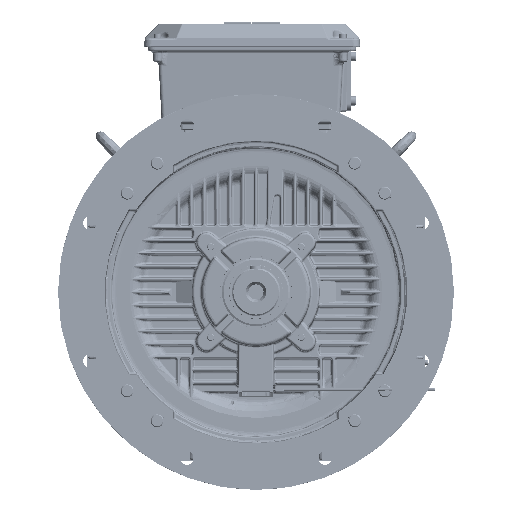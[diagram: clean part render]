
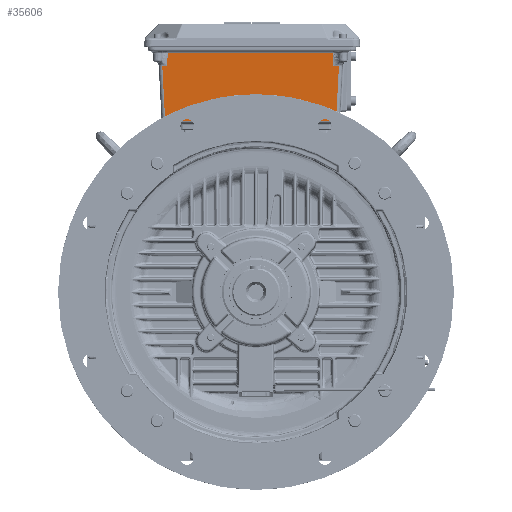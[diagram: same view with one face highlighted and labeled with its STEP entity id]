
A CAD part, front view. The second image highlights one B-rep face of the part: STEP entity #35606.
In plain terms, the highlighted planar face has unit normal (0, -0.999, -0.052).
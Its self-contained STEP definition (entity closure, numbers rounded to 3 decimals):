
#23768=B_SPLINE_CURVE_WITH_KNOTS('',3,(#432582,#432583,#432584,#432585,
#432586,#432587,#432588),.UNSPECIFIED.,.F.,.F.,(4,1,1,1,4),(0.,0.235,
0.277,0.319,1.),.UNSPECIFIED.);
#23775=B_SPLINE_CURVE_WITH_KNOTS('',3,(#432789,#432790,#432791,#432792,
#432793,#432794,#432795),.UNSPECIFIED.,.F.,.F.,(4,1,1,1,4),(0.,0.681,
0.723,0.765,1.),.UNSPECIFIED.);
#35606=ADVANCED_FACE('',(#51773),#40303,.T.);
#40303=PLANE('',#210285);
#51773=FACE_OUTER_BOUND('',#64686,.T.);
#64686=EDGE_LOOP('',(#124663,#124664,#124665,#124666,#124667,#124668,#124669,
#124670));
#124663=ORIENTED_EDGE('',*,*,#170658,.T.);
#124664=ORIENTED_EDGE('',*,*,#170657,.F.);
#124665=ORIENTED_EDGE('',*,*,#170423,.T.);
#124666=ORIENTED_EDGE('',*,*,#170426,.T.);
#124667=ORIENTED_EDGE('',*,*,#170551,.F.);
#124668=ORIENTED_EDGE('',*,*,#170441,.T.);
#124669=ORIENTED_EDGE('',*,*,#170435,.T.);
#124670=ORIENTED_EDGE('',*,*,#170659,.F.);
#143126=VERTEX_POINT('',#432397);
#143130=VERTEX_POINT('',#432544);
#143131=VERTEX_POINT('',#432581);
#143137=VERTEX_POINT('',#432664);
#143139=VERTEX_POINT('',#432710);
#143142=VERTEX_POINT('',#432761);
#143264=VERTEX_POINT('',#434967);
#143265=VERTEX_POINT('',#434971);
#170423=EDGE_CURVE('',#143126,#143130,#183793,.T.);
#170426=EDGE_CURVE('',#143130,#143131,#23768,.T.);
#170435=EDGE_CURVE('',#143137,#143139,#183794,.T.);
#170441=EDGE_CURVE('',#143142,#143137,#23775,.T.);
#170551=EDGE_CURVE('',#143142,#143131,#183803,.T.);
#170657=EDGE_CURVE('',#143126,#143264,#183845,.T.);
#170658=EDGE_CURVE('',#143265,#143264,#183846,.T.);
#170659=EDGE_CURVE('',#143265,#143139,#183847,.T.);
#183793=LINE('',#432545,#196188);
#183794=LINE('',#432711,#196189);
#183803=LINE('',#434204,#196198);
#183845=LINE('',#434968,#196240);
#183846=LINE('',#434970,#196241);
#183847=LINE('',#434972,#196242);
#196188=VECTOR('',#249749,1.);
#196189=VECTOR('',#249762,1.);
#196198=VECTOR('',#249895,1.);
#196240=VECTOR('',#250075,1.);
#196241=VECTOR('',#250078,1.);
#196242=VECTOR('',#250079,1.);
#210285=AXIS2_PLACEMENT_3D('',#434973,#250080,#250081);
#249749=DIRECTION('',(-1.,0.,0.));
#249762=DIRECTION('',(-1.,0.,0.));
#249895=DIRECTION('',(1.,0.,0.));
#250075=DIRECTION('',(-0.052,0.052,-0.997));
#250078=DIRECTION('',(1.,0.,0.));
#250079=DIRECTION('',(-0.052,-0.052,0.997));
#250080=DIRECTION('',(0.,-0.999,-0.052));
#250081=DIRECTION('',(-1.,0.,0.));
#432397=CARTESIAN_POINT('',(115.399,0.308,314.314));
#432544=CARTESIAN_POINT('',(107.484,0.308,314.314));
#432545=CARTESIAN_POINT('',(115.399,0.308,314.314));
#432581=CARTESIAN_POINT('',(106.973,-0.627,332.157));
#432582=CARTESIAN_POINT('',(107.484,0.308,314.314));
#432583=CARTESIAN_POINT('',(107.443,0.235,315.709));
#432584=CARTESIAN_POINT('',(107.395,0.149,317.355));
#432585=CARTESIAN_POINT('',(107.341,0.049,319.25));
#432586=CARTESIAN_POINT('',(107.209,-0.189,323.802));
#432587=CARTESIAN_POINT('',(107.087,-0.415,328.105));
#432588=CARTESIAN_POINT('',(106.973,-0.627,332.157));
#432664=CARTESIAN_POINT('',(-123.484,0.308,314.314));
#432710=CARTESIAN_POINT('',(-130.399,0.308,314.314));
#432711=CARTESIAN_POINT('',(-123.484,0.308,314.314));
#432761=CARTESIAN_POINT('',(-122.973,-0.627,332.157));
#432789=CARTESIAN_POINT('',(-122.973,-0.627,332.157));
#432790=CARTESIAN_POINT('',(-123.087,-0.415,328.105));
#432791=CARTESIAN_POINT('',(-123.209,-0.189,323.802));
#432792=CARTESIAN_POINT('',(-123.341,0.049,319.25));
#432793=CARTESIAN_POINT('',(-123.395,0.149,317.355));
#432794=CARTESIAN_POINT('',(-123.443,0.235,315.709));
#432795=CARTESIAN_POINT('',(-123.484,0.308,314.314));
#434204=CARTESIAN_POINT('',(-122.973,-0.627,332.157));
#434967=CARTESIAN_POINT('',(111.391,4.316,237.843));
#434968=CARTESIAN_POINT('',(115.399,0.308,314.314));
#434970=CARTESIAN_POINT('',(-126.391,4.316,237.843));
#434971=CARTESIAN_POINT('',(-126.391,4.316,237.843));
#434972=CARTESIAN_POINT('',(-126.391,4.316,237.843));
#434973=CARTESIAN_POINT('',(-137.132,4.465,235.));
